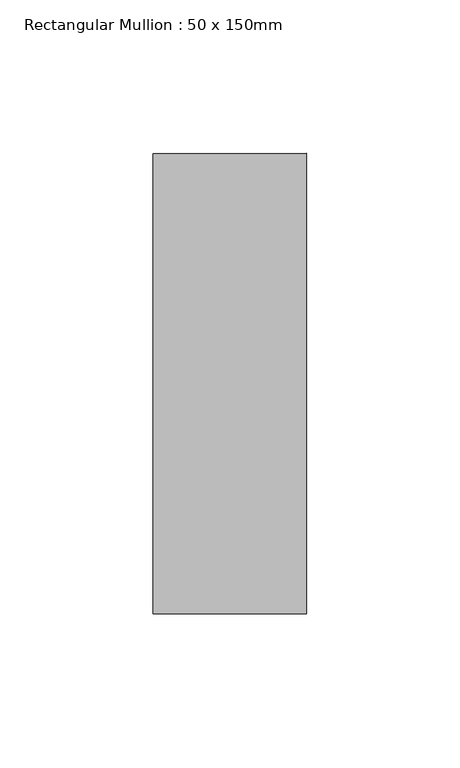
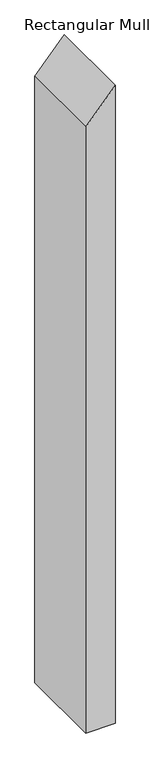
"""IFC4 building model written with IfcOpenShell, lengths in millimetres: member geometry, Rectangular Mullion : 50 x 150mm."""

import ifcopenshell
import ifcopenshell.guid

model = None  # the IFC model being written
_history = None  # IfcOwnerHistory: only IFC2X3 demands one
_inside = {}  # id of a spatial element -> (the spatial element, [elements in it])
_under = {}  # id of a project, library or spatial element -> (it, [spatial elements below it])
_declared = {}  # id of a project -> (the project, [libraries it declares])
_typed = {}  # id of a type object -> (the type object, [elements of that type])
_made_of = {}  # id of a material, layer set ... -> (it, [elements and type objects made of it])


def new_model(schema):
    """Start an empty IFC model of exactly this schema.

    Asked for "IFC4X3", IfcOpenShell would pick the latest addendum, in which some entities
    have other attributes; the version numbers below select the first issue.
    IFC2X3 requires an IfcOwnerHistory on every rooted entity: one is made here for all.
    """
    global model, _history
    if schema == "IFC4X3":
        model = ifcopenshell.file(schema_version=(4, 3, 0, 0))
    else:
        model = ifcopenshell.file(schema=schema)
    _inside.clear()
    _under.clear()
    _declared.clear()
    _typed.clear()
    _made_of.clear()
    _history = None
    if model.schema == "IFC2X3":
        org = make("IfcOrganization", Name="unknown")
        user = make(
            "IfcPersonAndOrganization",
            ThePerson=make("IfcPerson", FamilyName="unknown"),
            TheOrganization=org,
        )
        app = make(
            "IfcApplication",
            ApplicationDeveloper=org,
            Version="unknown",
            ApplicationFullName="unknown",
            ApplicationIdentifier="unknown",
        )
        _history = make(
            "IfcOwnerHistory",
            OwningUser=user,
            OwningApplication=app,
            ChangeAction="ADDED",
            CreationDate=0,
        )
    return model


def make(cls, **values):
    """One entity of the class cls with the attributes given. An attribute that is None is left unset."""
    return model.create_entity(
        cls, **{name: value for name, value in values.items() if value is not None}
    )


def rooted(cls, **values):
    """An entity with a GlobalId (a new one), such as an element, a storey or a relation."""
    return make(cls, GlobalId=ifcopenshell.guid.new(), OwnerHistory=_history, **values)


def si_unit(unit_type, name, prefix=None):
    """IfcSIUnit, for example si_unit("LENGTHUNIT", "METRE", prefix="MILLI")."""
    return make("IfcSIUnit", UnitType=unit_type, Prefix=prefix, Name=name)


def assignment(units):
    """IfcUnitAssignment: the units of a project."""
    return None if units is None else make("IfcUnitAssignment", Units=units)


def point(xyz):
    """IfcCartesianPoint."""
    return None if xyz is None else make("IfcCartesianPoint", Coordinates=xyz)


def direction(xyz):
    """IfcDirection."""
    return None if xyz is None else make("IfcDirection", DirectionRatios=xyz)


def frame(location, z_axis=None, x_axis=None):
    """IfcAxis2Placement3D, a coordinate frame: its origin and axes. An axis left out is left unset."""
    return make(
        "IfcAxis2Placement3D",
        Location=point(location),
        Axis=direction(z_axis),
        RefDirection=direction(x_axis),
    )


def origin():
    """The frame at (0, 0, 0) with its axes left unset."""
    return frame((0.0, 0.0, 0.0))


def place(relative_to, where):
    """IfcLocalPlacement: puts the frame where relative to a parent placement (None: the world)."""
    return make(
        "IfcLocalPlacement", PlacementRelTo=relative_to, RelativePlacement=where
    )


def context(
    kind, dimensions, precision=None, world=None, true_north=None, identifier=None
):
    """IfcGeometricRepresentationContext, for example the 3D "Model" context."""
    return make(
        "IfcGeometricRepresentationContext",
        ContextIdentifier=identifier,
        ContextType=kind,
        CoordinateSpaceDimension=dimensions,
        Precision=precision,
        WorldCoordinateSystem=world,
        TrueNorth=true_north,
    )


def project(units=None, contexts=None):
    """IfcProject with its units and contexts."""
    return rooted(
        "IfcProject",
        Name="project",
        RepresentationContexts=contexts,
        UnitsInContext=assignment(units),
    )


def spatial(cls, under=None, at=None, **own):
    """A site, building, storey or space (cls), placed at a placement, below another one or the project."""
    s = rooted(cls, ObjectPlacement=at, **own)
    if under is not None:
        _under.setdefault(under.id(), (under, []))[1].append(s)
    return s


def polyline(points):
    """IfcPolyline through the points."""
    return make("IfcPolyline", Points=[point(p) for p in points])


def outline(outer, holes=None, kind="AREA"):
    """IfcArbitraryClosedProfileDef: a profile drawn as a closed curve; with holes, ...WithVoids."""
    if holes is None:
        return make("IfcArbitraryClosedProfileDef", ProfileType=kind, OuterCurve=outer)
    return make(
        "IfcArbitraryProfileDefWithVoids",
        ProfileType=kind,
        OuterCurve=outer,
        InnerCurves=holes,
    )


def extrude(swept, where, along, depth):
    """IfcExtrudedAreaSolid: the profile swept, set in the frame where, extruded along a direction by depth."""
    return make(
        "IfcExtrudedAreaSolid",
        SweptArea=swept,
        Position=where,
        ExtrudedDirection=direction(along),
        Depth=depth,
    )


def shape(context_of_items, identifier, shape_type, items):
    """IfcShapeRepresentation: the items that make up one representation, for example the "Body"."""
    return make(
        "IfcShapeRepresentation",
        ContextOfItems=context_of_items,
        RepresentationIdentifier=identifier,
        RepresentationType=shape_type,
        Items=items,
    )


def source(mapping_origin, context_of_items, identifier, shape_type, items):
    """IfcRepresentationMap: a shape defined once, which mapped items show again and again."""
    return make(
        "IfcRepresentationMap",
        MappingOrigin=mapping_origin,
        MappedRepresentation=shape(context_of_items, identifier, shape_type, items),
    )


def transform(
    local_origin,
    x_axis=None,
    y_axis=None,
    z_axis=None,
    scale=None,
    scale2=None,
    scale3=None,
    uniform=True,
):
    """IfcCartesianTransformationOperator3D, or its non-uniform kind. x_axis, y_axis, z_axis: its Axis1, 2, 3."""
    if uniform:
        return make(
            "IfcCartesianTransformationOperator3D",
            Axis1=direction(x_axis),
            Axis2=direction(y_axis),
            LocalOrigin=point(local_origin),
            Scale=scale,
            Axis3=direction(z_axis),
        )
    return make(
        "IfcCartesianTransformationOperator3DnonUniform",
        Axis1=direction(x_axis),
        Axis2=direction(y_axis),
        LocalOrigin=point(local_origin),
        Scale=scale,
        Axis3=direction(z_axis),
        Scale2=scale2,
        Scale3=scale3,
    )


def mapped(mapping_source, mapping_target):
    """IfcMappedItem: shows the shape of a source again, moved by a transform."""
    return make(
        "IfcMappedItem", MappingSource=mapping_source, MappingTarget=mapping_target
    )


def made_of(thing, what):
    """Note that an element or type object is made of a material, layer set ...; save() writes the relation."""
    if what is not None:
        _made_of.setdefault(what.id(), (what, []))[1].append(thing)
    return thing


def element(
    cls,
    number,
    at=None,
    inside=None,
    cuts=None,
    type_object=None,
    material=None,
    context=None,
    identifier="Body",
    shape_type=None,
    held_by="IfcProductDefinitionShape",
    body=None,
    shapes=None,
    **own,
):
    """One element of the class cls, such as IfcWall. Its Tag is "e" and its number.

    at: its placement. inside: the storey or other place that contains it. cuts: it is an
    opening in that element (IfcRelVoidsElement). A single representation is given by context,
    identifier, shape_type and body (its items); several are given by shapes. held_by: the class
    of the entity that holds the representations. save() writes the other relations.
    """
    e = rooted(cls, Tag="e%d" % number, ObjectPlacement=at, **own)
    if body is not None:
        shapes = [shape(context, identifier, shape_type, body)]
    if shapes is not None:
        e.Representation = make(held_by, Representations=shapes)
    if inside is not None:
        _inside.setdefault(inside.id(), (inside, []))[1].append(e)
    if cuts is not None:
        rooted(
            "IfcRelVoidsElement", RelatingBuildingElement=cuts, RelatedOpeningElement=e
        )
    if type_object is not None:
        _typed.setdefault(type_object.id(), (type_object, []))[1].append(e)
    return made_of(e, material)


def aggregate(whole, parts):
    """IfcRelAggregates: a whole, such as a stair, and the parts it consists of."""
    return rooted("IfcRelAggregates", RelatingObject=whole, RelatedObjects=parts)


def save(model, path):
    """Write the relations noted so far, then the file.

    IfcRelAggregates (storeys below a building ...), IfcRelContainedInSpatialStructure (elements
    in a storey), IfcRelDefinesByType, IfcRelAssociatesMaterial and IfcRelDeclares: one each for
    every whole, place, type object, material and project.
    """
    for whole, parts in _under.values():
        aggregate(whole, parts)
    for where, things in _inside.values():
        rooted(
            "IfcRelContainedInSpatialStructure",
            RelatedElements=things,
            RelatingStructure=where,
        )
    for kind, things in _typed.values():
        rooted("IfcRelDefinesByType", RelatedObjects=things, RelatingType=kind)
    for what, things in _made_of.values():
        rooted("IfcRelAssociatesMaterial", RelatedObjects=things, RelatingMaterial=what)
    for by, libraries in _declared.values():
        rooted("IfcRelDeclares", RelatingContext=by, RelatedDefinitions=libraries)
    model.write(path)


def rectangular_mullion_50_x_150mm_6f798574(model_context):
    return source(origin(), model_context, "Body", "SweptSolid", [
        extrude(outline(polyline([(-47.3292929, 25.0), (-104.3576144, -25.0), (-1196.5236378, -25.0), (-1196.5236378, 25.0), (-47.3292929, 25.0)])), frame((0.0, -75.0, 0.0), z_axis=(0.0, 1.0, 0.0), x_axis=(0.0, 0.0, 1.0)), (0.0, 0.0, 1.0), 150.0),
    ])


if __name__ == "__main__":
    model = new_model("IFC4")
    model_context = context("Model", 3, world=origin())
    ifc_project = project(units=[si_unit("LENGTHUNIT", "METRE", prefix="MILLI")], contexts=[model_context])
    site = spatial("IfcSite", under=ifc_project)
    building = spatial("IfcBuilding", under=site)
    placement = place(None, origin())
    rectangular_mullion_50_x_150mm_shape = rectangular_mullion_50_x_150mm_6f798574(model_context)
    element("IfcMember", 1, ObjectType="Rectangular Mullion : 50 x 150mm", at=placement, inside=building, context=model_context, shape_type="MappedRepresentation", body=[
        mapped(rectangular_mullion_50_x_150mm_shape, transform((0.0, 0.0, 0.0), x_axis=(1.0, 0.0, 0.0), y_axis=(0.0, 1.0, 0.0), z_axis=(0.0, 0.0, 1.0))),
    ])
    save(model, "model.ifc")
